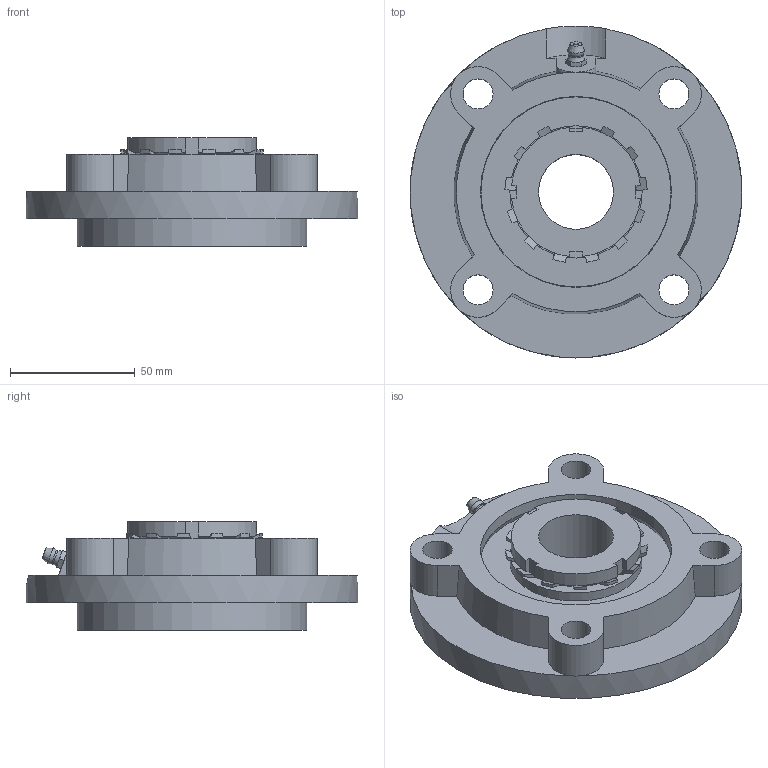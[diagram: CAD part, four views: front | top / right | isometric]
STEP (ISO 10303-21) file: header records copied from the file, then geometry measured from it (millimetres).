
FILE_DESCRIPTION((''),'2;1');
FILE_NAME('\\Ts-tgl068\j-cad-d-base\00.3DCADデータ作成フォルダ\02.フランジ形\UKFCX\UKFCX07+H.stp','2014-12-10T08:24:34',('btec_1106_2'),(''),'Autodesk Inventor 2012','Autodesk Inventor 2012','');
FILE_SCHEMA(('AUTOMOTIVE_DESIGN { 1 0 10303 214 1 1 1 1 }'));
Length unit declared in the file: millimetre
Products named in the file (4): UKFCX00+H; FCX07; UKX07+H; GU1
Assembly tree (3 placements, depth 2):
  UKFCX00+H
    FCX07
    UKX07+H
    GU1
Bounding box: 133 x 133 x 43.6 mm (x, y, z)
Volume: 281632.1 mm3; surface area: 67243.2 mm2
Topology: 3 solids, 3 shells, 180 faces, 474 edges, 307 vertices
Faces by surface type: plane 77, cone 50, cylinder 47, sphere 4, torus 2
Full cylindrical faces by diameter (mm): 5.359 x1, 6.35 x1, 12 x4, 30 x1, 53 x2, 92 x1, 133 x1
Entity records: 5553 total; most frequent: CARTESIAN_POINT 1270, ORIENTED_EDGE 902, DIRECTION 852, EDGE_CURVE 451, AXIS2_PLACEMENT_3D 346, VERTEX_POINT 304, EDGE_LOOP 221, FACE_OUTER_BOUND 180
